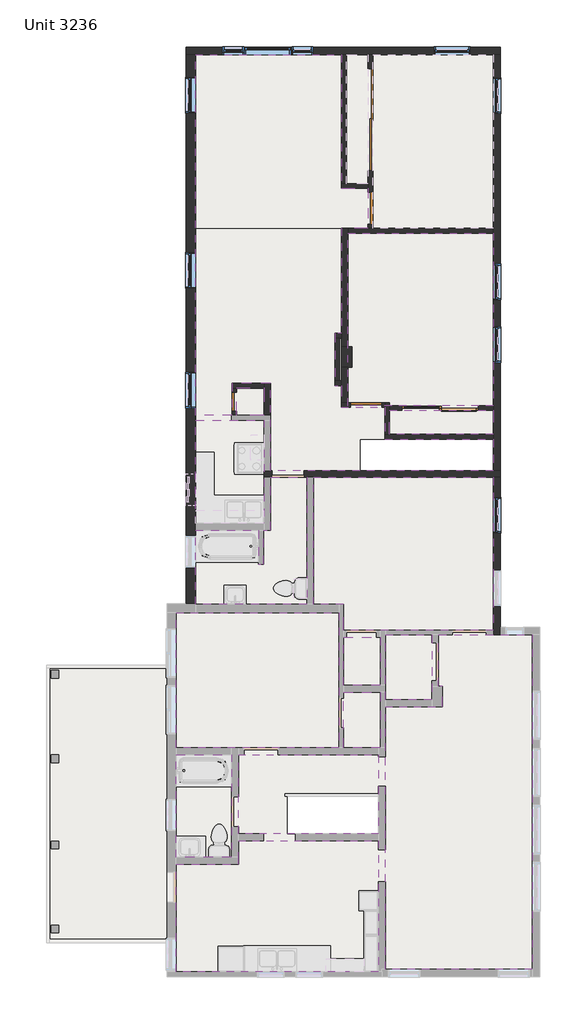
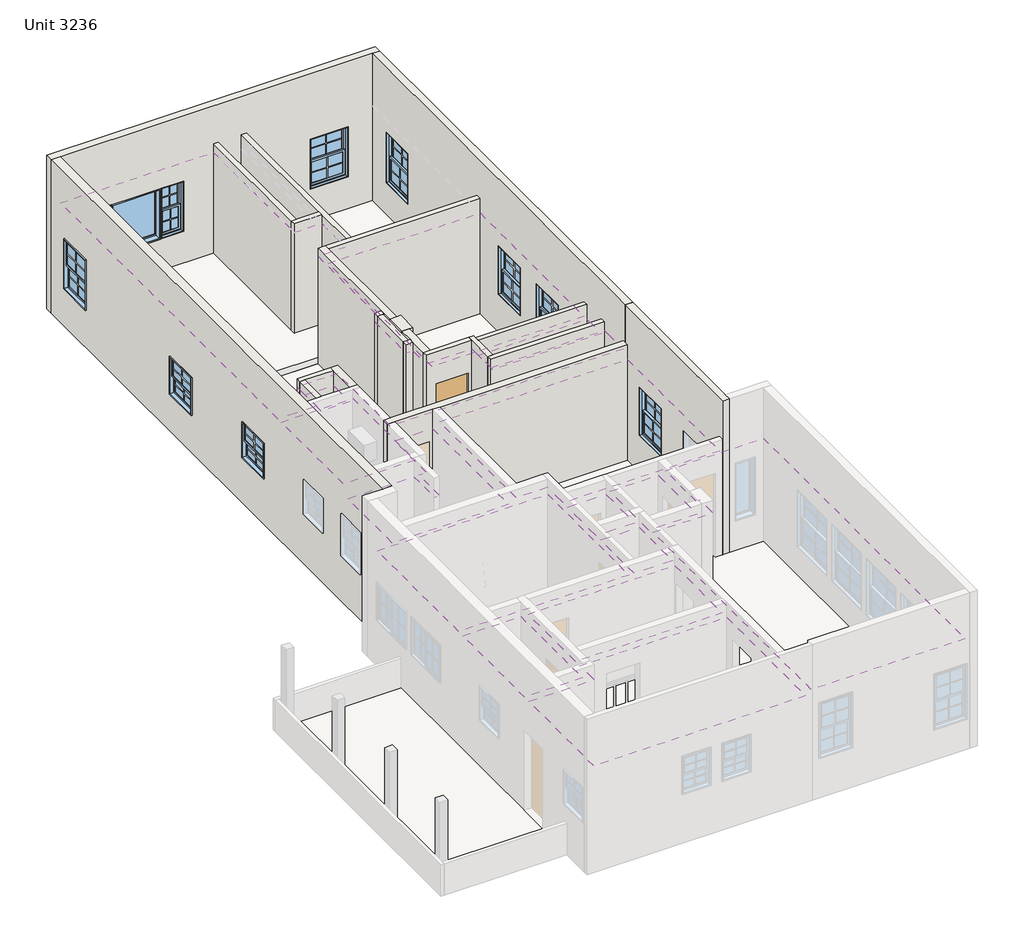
# One storey, part 2 of 3: 22 walls, 15 coverings, 11 windows, 5 doors, 3 slabs.
"""IFC4 building model written with IfcOpenShell, lengths in millimetres."""

from ifc_helpers import new_model, si_unit, frame, origin, place, context, project, spatial, polyline, outline, extrude, faceted_brep, transform, mapped, element, save
from components import door_4a436eca, door_f61abd0f, door_aa45f35f, door_3974eb5a, door_7fdea281, window_d32207df, window_7579d9c0, window_70ceb76e, window_a33a3c81, window_6252a8aa, window_33594941, window_0332ee5e, window_46490766

model = new_model("IFC4")

# Units and contexts
model_context = context("Model", 3, world=origin())
ifc_project = project(units=[si_unit("LENGTHUNIT", "METRE", prefix="MILLI")], contexts=[model_context])

# Site, building, storey
site = spatial("IfcSite", under=ifc_project)
building = spatial("IfcBuilding", under=site)
storey = spatial("IfcBuildingStorey", under=building, Name="Unit 3236", Elevation=2895.6)

# Coverings
placement = place(None, origin())
element("IfcCovering", 1, ObjectType="1/2\" Ceiling", at=placement, inside=storey, context=model_context, shape_type="SweptSolid", body=[
    extrude(outline(polyline([(197.4197598, 12350.1038353), (197.4197598, 9156.0538353), (832.4197598, 9156.0538353), (832.4197598, 8197.2038353), (191.0697598, 8197.2038353), (191.0697598, 5688.9538353), (38.6697598, 5688.9538353), (38.6697598, 4438.0038353), (191.0697598, 4438.0038353), (191.0697598, 3917.3038353), (1232.4697598, 3917.3038353), (1232.4697598, 3155.3038353), (3829.6197598, 3155.3038353), (3829.6197598, 2406.0038353), (-1498.0302402, 2406.0038353), (-1498.0302402, 4495.1538353), (-2425.1302402, 4495.1538353), (-2425.1302402, 3726.8038353), (-3301.4302402, 3726.8038353), (-3301.4302402, 12350.1038353), (197.4197598, 12350.1038353)])), frame((0.0, 0.0, 5486.4), z_axis=(0.0, 0.0, 1.0), x_axis=(1.0, 0.0, 0.0)), (0.0, 0.0, 1.0), 12.7),
])
element("IfcCovering", 2, ObjectType="1/2\" Ceiling", at=placement, inside=storey, context=model_context, shape_type="SweptSolid", body=[
    extrude(outline(polyline([(356.1697598, 3961.7538353), (356.1697598, 8082.9038353), (3829.6197598, 8082.9038353), (3829.6197598, 3961.7538353), (356.1697598, 3961.7538353)])), frame((0.0, 0.0, 5334.0), z_axis=(0.0, 0.0, 1.0), x_axis=(1.0, 0.0, 0.0)), (0.0, 0.0, 1.0), 12.7),
])
element("IfcCovering", 3, ObjectType="1/2\" Ceiling", at=placement, inside=storey, context=model_context, shape_type="SweptSolid", body=[
    extrude(outline(polyline([(1346.7697598, 3269.6038353), (1346.7697598, 3847.4538353), (3829.6197598, 3847.4538353), (3829.6197598, 3269.6038353), (1346.7697598, 3269.6038353)])), frame((0.0, 0.0, 5334.0), z_axis=(0.0, 0.0, 1.0), x_axis=(1.0, 0.0, 0.0)), (0.0, 0.0, 1.0), 12.7),
])
element("IfcCovering", 4, ObjectType="1/2\" Ceiling", at=placement, inside=storey, context=model_context, shape_type="SweptSolid", body=[
    extrude(outline(polyline([(-2310.8302402, 3726.8038353), (-2310.8302402, 4380.8538353), (-1663.1302402, 4380.8538353), (-1663.1302402, 3726.8038353), (-2310.8302402, 3726.8038353)])), frame((0.0, 0.0, 5334.0), z_axis=(0.0, 0.0, 1.0), x_axis=(1.0, 0.0, 0.0)), (0.0, 0.0, 1.0), 12.7),
])
element("IfcCovering", 5, ObjectType="1/2\" Ceiling", at=placement, inside=storey, context=model_context, shape_type="SweptSolid", body=[
    extrude(outline(polyline([(-1663.1302402, 3612.5038353), (-1663.1302402, 1142.3538353), (-3301.4302402, 1142.3538353), (-3301.4302402, 3612.5038353), (-1663.1302402, 3612.5038353)])), frame((0.0, 0.0, 5486.4), z_axis=(0.0, 0.0, 1.0), x_axis=(1.0, 0.0, 0.0)), (0.0, 0.0, 1.0), 12.7),
])
element("IfcCovering", 6, ObjectType="1/2\" Ceiling", at=placement, inside=storey, context=model_context, shape_type="SweptSolid", body=[
    extrude(outline(polyline([(-1498.0302402, 2240.9038353), (-634.4302402, 2240.9038353), (-634.4302402, -794.3961647), (-3301.4302402, -794.3961647), (-3301.4302402, 977.2538353), (-1783.7802402, 977.2538353), (-1783.7802402, 164.4538353), (-1669.4802402, 164.4538353), (-1669.4802402, 977.2538353), (-1498.0302402, 977.2538353), (-1498.0302402, 2240.9038353)])), frame((0.0, 0.0, 5232.4), z_axis=(0.0, 0.0, 1.0), x_axis=(1.0, 0.0, 0.0)), (0.0, 0.0, 1.0), 12.7),
])
element("IfcCovering", 7, ObjectType="1/2\" Ceiling", at=placement, inside=storey, context=model_context, shape_type="SweptSolid", body=[
    extrude(outline(polyline([(3829.6197598, 2240.9038353), (3829.6197598, -1410.3461647), (248.2197598, -1410.3461647), (248.2197598, -794.3961647), (-469.3302402, -794.3961647), (-469.3302402, 2240.9038353), (3829.6197598, 2240.9038353)])), frame((0.0, 0.0, 5334.0), z_axis=(0.0, 0.0, 1.0), x_axis=(1.0, 0.0, 0.0)), (0.0, 0.0, 1.0), 12.7),
])
element("IfcCovering", 8, ObjectType="1/2\" Ceiling", at=placement, inside=storey, context=model_context, shape_type="SweptSolid", body=[
    extrude(outline(polyline([(248.2197598, -2724.7961647), (248.2197598, -1575.4461647), (1130.8697598, -1575.4461647), (1130.8697598, -2724.7961647), (248.2197598, -2724.7961647)])), frame((0.0, 0.0, 5334.0), z_axis=(0.0, 0.0, 1.0), x_axis=(1.0, 0.0, 0.0)), (0.0, 0.0, 1.0), 12.7),
])
element("IfcCovering", 9, ObjectType="1/2\" Ceiling", at=placement, inside=storey, context=model_context, shape_type="SweptSolid", body=[
    extrude(outline(polyline([(-3764.9802402, -997.5961647), (133.9197598, -997.5961647), (133.9197598, -4223.3961647), (-3764.9802402, -4223.3961647), (-3764.9802402, -997.5961647)])), frame((0.0, 0.0, 5334.0), z_axis=(0.0, 0.0, 1.0), x_axis=(1.0, 0.0, 0.0)), (0.0, 0.0, 1.0), 12.7),
])
element("IfcCovering", 10, ObjectType="1/2\" Ceiling", at=placement, inside=storey, context=model_context, shape_type="SweptSolid", body=[
    extrude(outline(polyline([(248.2197598, -4223.3961647), (248.2197598, -2889.8961647), (1130.8697598, -2889.8961647), (1130.8697598, -4223.3961647), (248.2197598, -4223.3961647)])), frame((0.0, 0.0, 5334.0), z_axis=(0.0, 0.0, 1.0), x_axis=(1.0, 0.0, 0.0)), (0.0, 0.0, 1.0), 12.7),
])
element("IfcCovering", 11, ObjectType="1/2\" Ceiling", at=placement, inside=storey, context=model_context, shape_type="SweptSolid", body=[
    extrude(outline(polyline([(1245.1697598, -9519.2961647), (1245.1697598, -3245.4961647), (2610.4197598, -3245.4961647), (2610.4197598, -2750.1961647), (2521.5197598, -2750.1961647), (2521.5197598, -1524.6461647), (4763.0697598, -1524.6461647), (4763.0697598, -9519.2961647), (1245.1697598, -9519.2961647)])), frame((0.0, 0.0, 5384.8), z_axis=(0.0, 0.0, 1.0), x_axis=(1.0, 0.0, 0.0)), (0.0, 0.0, 1.0), 12.7),
])
element("IfcCovering", 12, ObjectType="1/2\" Ceiling", at=placement, inside=storey, context=model_context, shape_type="SweptSolid", body=[
    extrude(outline(polyline([(1245.1697598, -3080.3961647), (1245.1697598, -1524.6461647), (2356.4197598, -1524.6461647), (2356.4197598, -3080.3961647), (1245.1697598, -3080.3961647)])), frame((0.0, 0.0, 5334.0), z_axis=(0.0, 0.0, 1.0), x_axis=(1.0, 0.0, 0.0)), (0.0, 0.0, 1.0), 12.7),
])
element("IfcCovering", 13, ObjectType="1/2\" Ceiling", at=placement, inside=storey, context=model_context, shape_type="SweptSolid", body=[
    extrude(outline(polyline([(-2272.7302402, -6280.7961647), (-2272.7302402, -4388.4961647), (1080.0697598, -4388.4961647), (1080.0697598, -6280.7961647), (-2272.7302402, -6280.7961647)])), frame((0.0, 0.0, 5334.0), z_axis=(0.0, 0.0, 1.0), x_axis=(1.0, 0.0, 0.0)), (0.0, 0.0, 1.0), 12.7),
])
element("IfcCovering", 14, ObjectType="1/2\" Ceiling", at=placement, inside=storey, context=model_context, shape_type="SweptSolid", body=[
    extrude(outline(polyline([(-3764.9802402, -6839.5961647), (-3764.9802402, -4388.4961647), (-2437.8302402, -4388.4961647), (-2437.8302402, -6839.5961647), (-3764.9802402, -6839.5961647)])), frame((0.0, 0.0, 5334.0), z_axis=(0.0, 0.0, 1.0), x_axis=(1.0, 0.0, 0.0)), (0.0, 0.0, 1.0), 12.7),
])
element("IfcCovering", 15, ObjectType="1/2\" Ceiling", at=placement, inside=storey, context=model_context, shape_type="SweptSolid", body=[
    extrude(outline(polyline([(-2272.7302402, -6445.8961647), (1080.0697598, -6445.8961647), (1080.0697598, -9582.7961647), (-3764.9802402, -9582.7961647), (-3764.9802402, -7004.6961647), (-2272.7302402, -7004.6961647), (-2272.7302402, -6445.8961647)])), frame((0.0, 0.0, 5334.0), z_axis=(0.0, 0.0, 1.0), x_axis=(1.0, 0.0, 0.0)), (0.0, 0.0, 1.0), 12.7),
])

# Doors
door_shape = door_4a436eca(model_context)
element("IfcDoor", 16, ObjectType="Planitar - Single Door_Flush Panel : 1'-6\" x 6'-8\"", at=placement, inside=storey, context=model_context, shape_type="MappedRepresentation", body=[
    mapped(door_shape, transform((-2367.9802402, 4053.8288353, 2895.6), x_axis=(0.0, -1.0, 0.0), y_axis=(1.0, 0.0, 0.0), z_axis=(0.0, 0.0, 1.0))),
])
door_2_shape = door_f61abd0f(model_context)
element("IfcDoor", 17, ObjectType="Planitar - Single Door_Flush Panel : 2'-6\" x 6'-8\"", at=placement, inside=storey, context=model_context, shape_type="MappedRepresentation", body=[
    mapped(door_2_shape, transform((787.9697598, 3974.4538353, 2895.6), x_axis=(-1.0, 0.0, 0.0), y_axis=(0.0, -1.0, 0.0), z_axis=(0.0, 0.0, 1.0))),
])
door_3_shape = door_aa45f35f(model_context)
element("IfcDoor", 18, ObjectType="Planitar - Single Door_Flush Panel : 2'-6\" x 6'-8\"", at=placement, inside=storey, context=model_context, shape_type="MappedRepresentation", body=[
    mapped(door_3_shape, transform((889.5697598, 8676.6288353, 2895.6), x_axis=(0.0, -1.0, 0.0), y_axis=(1.0, 0.0, 0.0), z_axis=(0.0, 0.0, 1.0))),
])
door_4_shape = door_3974eb5a(model_context)
element("IfcDoor", 19, ObjectType="Planitar - Double Sliding Door_Glass : 6'-0\" x 6'-8\"", at=placement, inside=storey, context=model_context, shape_type="MappedRepresentation", body=[
    mapped(door_4_shape, transform((2559.6197598, 4031.6038353, 2895.6), x_axis=(-1.0, 0.0, 0.0), y_axis=(0.0, -1.0, 0.0), z_axis=(0.0, 0.0, 1.0))),
])
door_5_shape = door_7fdea281(model_context)
element("IfcDoor", 20, ObjectType="Planitar - Double Sliding Door_Flush Panel : 8'-0\" x 6'-8\"", at=placement, inside=storey, context=model_context, shape_type="MappedRepresentation", body=[
    mapped(door_5_shape, transform((892.7447598, 10800.7038353, 2895.6), x_axis=(0.0, -1.0, 0.0), y_axis=(1.0, 0.0, 0.0), z_axis=(0.0, 0.0, 1.0))),
])

# Slabs
element("IfcSlab", 21, ObjectType="Ledge - 2\"", at=placement, inside=storey, context=model_context, shape_type="SweptSolid", body=[
    extrude(outline(polyline([(-3980.8802402, -2324.7461647), (-3980.8802402, -8808.0961647), (-6787.5802402, -8808.0961647), (-6787.5802402, -2324.7461647), (-3980.8802402, -2324.7461647)])), frame((0.0, 0.0, 2844.8), z_axis=(0.0, 0.0, 1.0), x_axis=(1.0, 0.0, 0.0)), (0.0, 0.0, 1.0), 50.8),
])
element("IfcSlab", 22, ObjectType="Ledge - 2\"", at=placement, inside=storey, context=model_context, shape_type="SweptSolid", body=[
    extrude(outline(polyline([(191.0697598, 8197.2038353), (191.0697598, 8082.9038353), (3829.6197598, 8082.9038353), (3829.6197598, 3155.3038353), (643.1588227, 3155.3038353), (643.1588227, 2406.0038353), (3829.6197598, 2406.0038353), (3829.6197598, 2240.9038353), (3829.6197598, -1524.6461647), (4763.0697598, -1524.6461647), (4763.0697598, -9519.2961647), (1080.0697598, -9519.2961647), (1080.0697598, -9582.7961647), (-3764.9802402, -9582.7961647), (-3764.9802402, -997.5961647), (-3301.4302402, -997.5961647), (-3301.4302402, 8197.2038353), (191.0697598, 8197.2038353)]), holes=[polyline([(-1097.9802402, -5353.6961647), (-1097.9802402, -6280.7961647), (1080.0697598, -6280.7961647), (1080.0697598, -5353.6961647), (-1097.9802402, -5353.6961647)])]), frame((0.0, 0.0, 2844.8), z_axis=(0.0, 0.0, 1.0), x_axis=(1.0, 0.0, 0.0)), (0.0, 0.0, 1.0), 50.8),
])
element("IfcSlab", 23, ObjectType="Ledge - 6\"", at=placement, inside=storey, context=model_context, shape_type="SweptSolid", body=[
    extrude(outline(polyline([(3829.6197598, 12350.1038353), (3829.6197598, 8197.2038353), (-3301.4302402, 8197.2038353), (-3301.4302402, 12350.1038353), (3829.6197598, 12350.1038353)])), frame((0.0, 0.0, 2895.6), z_axis=(0.0, 0.0, 1.0), x_axis=(1.0, 0.0, 0.0)), (0.0, 0.0, 1.0), 152.4),
])

# Walls
element("IfcWall", 24, ObjectType="Planitar - Generic 7\"", at=placement, inside=storey, context=model_context, shape_type="Brep", body=[
    faceted_brep([(-3517.3302402, 12350.1038353, 2895.6), (-3301.4302402, 12350.1038353, 2895.6), (197.4197598, 12350.1038353, 2895.6), (311.7197598, 12350.1038353, 2895.6), (832.4197598, 12350.1038353, 2895.6), (946.7197598, 12350.1038353, 2895.6), (3829.6197598, 12350.1038353, 2895.6), (3994.7197598, 12350.1038353, 2895.6), (3994.7197598, 12350.1038353, 6604.0), (3829.6197598, 12350.1038353, 6604.0), (-3301.4302402, 12350.1038353, 6604.0), (-3517.3302402, 12350.1038353, 6604.0), (2413.5697598, 12350.1038353, 3810.0), (2413.5697598, 12350.1038353, 5029.2), (3277.1697598, 12350.1038353, 5029.2), (3277.1697598, 12350.1038353, 3810.0), (-2129.8552402, 12350.1038353, 3810.0), (-2129.8552402, 12350.1038353, 5029.2), (-1012.2552402, 12350.1038353, 5029.2), (-1012.2552402, 12350.1038353, 3810.0), (-485.2052402, 12350.1038353, 3810.0), (-993.2052402, 12350.1038353, 3810.0), (-993.2052402, 12350.1038353, 5029.2), (-485.2052402, 12350.1038353, 5029.2), (-2644.2052402, 12350.1038353, 3810.0), (-2644.2052402, 12350.1038353, 5029.2), (-2136.2052402, 12350.1038353, 5029.2), (-2136.2052402, 12350.1038353, 3810.0), (3994.7197598, 12527.9038353, 2895.6), (-3517.3302402, 12527.9038353, 2895.6), (-3517.3302402, 12527.9038353, 6604.0), (3994.7197598, 12527.9038353, 6604.0), (2413.5697598, 12527.9038353, 5029.2), (2413.5697598, 12527.9038353, 3810.0), (3277.1697598, 12527.9038353, 3810.0), (3277.1697598, 12527.9038353, 5029.2), (-2129.8552402, 12527.9038353, 3810.0), (-1012.2552402, 12527.9038353, 3810.0), (-1012.2552402, 12527.9038353, 5029.2), (-2129.8552402, 12527.9038353, 5029.2), (-993.2052402, 12527.9038353, 3810.0), (-485.2052402, 12527.9038353, 3810.0), (-485.2052402, 12527.9038353, 5029.2), (-993.2052402, 12527.9038353, 5029.2), (-2644.2052402, 12527.9038353, 5029.2), (-2644.2052402, 12527.9038353, 3810.0), (-2136.2052402, 12527.9038353, 3810.0), (-2136.2052402, 12527.9038353, 5029.2)], [[[0, 1, 2, 3, 4, 5, 6, 7, 8, 9, 10, 11], [12, 13, 14, 15], [16, 17, 18, 19], [20, 21, 22, 23], [24, 25, 26, 27]], [[28, 29, 30, 31], [32, 33, 34, 35], [36, 37, 38, 39], [40, 41, 42, 43], [44, 45, 46, 47]], [[7, 6, 5, 4, 3, 2, 1, 0, 29, 28]], [[11, 10, 9, 8, 31, 30]], [[8, 7, 28, 31]], [[0, 11, 30, 29]], [[33, 32, 13, 12]], [[34, 33, 12, 15]], [[35, 34, 15, 14]], [[32, 35, 14, 13]], [[17, 16, 36, 39]], [[18, 17, 39, 38]], [[19, 18, 38, 37]], [[16, 19, 37, 36]], [[21, 40, 43, 22]], [[40, 21, 20, 41]], [[41, 20, 23, 42]], [[22, 43, 42, 23]], [[44, 25, 24, 45]], [[45, 24, 27, 46]], [[46, 27, 26, 47]], [[25, 44, 47, 26]]]),
])
element("IfcWall", 25, ObjectType="Planitar - Generic 6 1/2\"", at=placement, inside=storey, context=model_context, shape_type="Brep", body=[
    faceted_brep([(3829.6197598, 12350.1038353, 2895.6), (3829.6197598, 8197.2038353, 2895.6), (3829.6197598, 8082.9038353, 2895.6), (3829.6197598, 3961.7538353, 2895.6), (3829.6197598, 3847.4538353, 2895.6), (3829.6197598, 3269.6038353, 2895.6), (3829.6197598, 3155.3038353, 2895.6), (3829.6197598, 2406.0038353, 2895.6), (3829.6197598, 2406.0038353, 5689.6), (3829.6197598, 2323.4538353, 5689.6), (3829.6197598, 2323.4538353, 6604.0), (3829.6197598, 12350.1038353, 6604.0), (3829.6197598, 5847.7038353, 4978.4), (3829.6197598, 4984.1038353, 4978.4), (3829.6197598, 4984.1038353, 3810.0), (3829.6197598, 5847.7038353, 3810.0), (3829.6197598, 7352.6538353, 4978.4), (3829.6197598, 6489.0538353, 4978.4), (3829.6197598, 6489.0538353, 3810.0), (3829.6197598, 7352.6538353, 3810.0), (3829.6197598, 11804.0038353, 5029.2), (3829.6197598, 10940.4038353, 5029.2), (3829.6197598, 10940.4038353, 3810.0), (3829.6197598, 11804.0038353, 3810.0), (3994.7197598, 12350.1038353, 2895.6), (3994.7197598, 12350.1038353, 6604.0), (3994.7197598, 2323.4538353, 6604.0), (3994.7197598, 2323.4538353, 5689.6), (3994.7197598, 2406.0038353, 5689.6), (3994.7197598, 2406.0038353, 2895.6), (3994.7197598, 5847.7038353, 4978.4), (3994.7197598, 5847.7038353, 3810.0), (3994.7197598, 4984.1038353, 3810.0), (3994.7197598, 4984.1038353, 4978.4), (3994.7197598, 7352.6538353, 4978.4), (3994.7197598, 7352.6538353, 3810.0), (3994.7197598, 6489.0538353, 3810.0), (3994.7197598, 6489.0538353, 4978.4), (3994.7197598, 11804.0038353, 5029.2), (3994.7197598, 11804.0038353, 3810.0), (3994.7197598, 10940.4038353, 3810.0), (3994.7197598, 10940.4038353, 5029.2)], [[[0, 1, 2, 3, 4, 5, 6, 7, 8, 9, 10, 11], [12, 13, 14, 15], [16, 17, 18, 19], [20, 21, 22, 23]], [[24, 25, 26, 27, 28, 29], [30, 31, 32, 33], [34, 35, 36, 37], [38, 39, 40, 41]], [[7, 6, 5, 4, 3, 2, 1, 0, 24, 29]], [[11, 10, 26, 25]], [[0, 11, 25, 24]], [[31, 30, 12, 15]], [[32, 31, 15, 14]], [[33, 32, 14, 13]], [[30, 33, 13, 12]], [[35, 34, 16, 19]], [[36, 35, 19, 18]], [[37, 36, 18, 17]], [[34, 37, 17, 16]], [[39, 38, 20, 23]], [[40, 39, 23, 22]], [[41, 40, 22, 21]], [[38, 41, 21, 20]], [[10, 9, 27, 26]], [[27, 9, 8, 28]], [[8, 7, 29, 28]]]),
])
element("IfcWall", 26, ObjectType="Planitar - Generic 6 1/2\"", at=placement, inside=storey, context=model_context, shape_type="Brep", body=[
    faceted_brep([(3829.6197598, 2240.9038353, 2895.6), (3829.6197598, -1410.3461647, 2895.6), (3829.6197598, -1524.6461647, 2895.6), (3829.6197598, -1524.6461647, 5689.6), (3829.6197598, -1524.6461647, 6604.0), (3829.6197598, 2323.4538353, 6604.0), (3829.6197598, 2323.4538353, 5689.6), (3829.6197598, 2240.9038353, 5689.6), (3829.6197598, 24.7538353, 4953.0), (3829.6197598, -838.8461647, 4953.0), (3829.6197598, -838.8461647, 3784.6), (3829.6197598, 24.7538353, 3784.6), (3829.6197598, 1771.0038353, 4953.0), (3829.6197598, 907.4038353, 4953.0), (3829.6197598, 907.4038353, 3784.6), (3829.6197598, 1771.0038353, 3784.6), (3994.7197598, 2240.9038353, 2895.6), (3994.7197598, 2240.9038353, 5689.6), (3994.7197598, 2323.4538353, 5689.6), (3994.7197598, 2323.4538353, 6604.0), (3994.7197598, -1346.8461647, 6604.0), (3994.7197598, -1524.6461647, 6604.0), (3994.7197598, -1524.6461647, 2895.6), (3994.7197598, 24.7538353, 4953.0), (3994.7197598, 24.7538353, 3784.6), (3994.7197598, -838.8461647, 3784.6), (3994.7197598, -838.8461647, 4953.0), (3994.7197598, 1771.0038353, 4953.0), (3994.7197598, 1771.0038353, 3784.6), (3994.7197598, 907.4038353, 3784.6), (3994.7197598, 907.4038353, 4953.0)], [[[0, 1, 2, 3, 4, 5, 6, 7], [8, 9, 10, 11], [12, 13, 14, 15]], [[16, 17, 18, 19, 20, 21, 22], [23, 24, 25, 26], [27, 28, 29, 30]], [[2, 1, 0, 16, 22]], [[5, 4, 21, 20, 19]], [[24, 23, 8, 11]], [[25, 24, 11, 10]], [[26, 25, 10, 9]], [[23, 26, 9, 8]], [[28, 27, 12, 15]], [[29, 28, 15, 14]], [[30, 29, 14, 13]], [[27, 30, 13, 12]], [[2, 22, 21, 4, 3]], [[6, 5, 19, 18]], [[6, 18, 17, 7]], [[0, 7, 17, 16]]]),
])
element("IfcWall", 27, ObjectType="Planitar - Generic 6 1/2\"", at=placement, inside=storey, context=model_context, shape_type="Brep", body=[
    faceted_brep([(-1463.1052402, 2406.0038353, 4927.6), (-1463.1052402, 2406.0038353, 2895.6), (-1498.0302402, 2406.0038353, 2895.6), (-1663.1302402, 2406.0038353, 2895.6), (-1663.1302402, 2406.0038353, 5689.6), (-1498.0302402, 2406.0038353, 5689.6), (3829.6197598, 2406.0038353, 5689.6), (3994.7197598, 2406.0038353, 5689.6), (3994.7197598, 2406.0038353, 2895.6), (3829.6197598, 2406.0038353, 2895.6), (-701.1052402, 2406.0038353, 2895.6), (-701.1052402, 2406.0038353, 4927.6), (-1663.1302402, 2240.9038353, 2895.6), (-1498.0302402, 2240.9038353, 2895.6), (-1463.1052402, 2240.9038353, 2895.6), (-1463.1052402, 2240.9038353, 4927.6), (-701.1052402, 2240.9038353, 4927.6), (-701.1052402, 2240.9038353, 2895.6), (-634.4302402, 2240.9038353, 2895.6), (-469.3302402, 2240.9038353, 2895.6), (3829.6197598, 2240.9038353, 2895.6), (3994.7197598, 2240.9038353, 2895.6), (3994.7197598, 2240.9038353, 5689.6), (3829.6197598, 2240.9038353, 5689.6), (-469.3302402, 2240.9038353, 5689.6), (-634.4302402, 2240.9038353, 5689.6), (-1498.0302402, 2240.9038353, 5689.6), (-1663.1302402, 2240.9038353, 5689.6), (3994.7197598, 2323.4538353, 5689.6)], [[[0, 1, 2, 3, 4, 5, 6, 7, 8, 9, 10, 11]], [[12, 13, 14, 15, 16, 17, 18, 19, 20, 21, 22, 23, 24, 25, 26, 27]], [[3, 2, 1, 14, 13, 12]], [[10, 9, 8, 21, 20, 19, 18, 17]], [[7, 6, 5, 4, 27, 26, 25, 24, 23, 22, 28]], [[4, 3, 12, 27]], [[15, 14, 1, 0]], [[16, 15, 0, 11]], [[17, 16, 11, 10]], [[8, 7, 28, 22, 21]]]),
])
element("IfcWall", 28, ObjectType="Planitar - Generic 4 1/2\"", at=placement, inside=storey, context=model_context, shape_type="Brep", body=[
    faceted_brep([(3829.6197598, 3269.6038353, 2895.6), (1346.7697598, 3269.6038353, 2895.6), (1232.4697598, 3269.6038353, 2895.6), (1232.4697598, 3269.6038353, 5689.6), (1346.7697598, 3269.6038353, 5689.6), (3829.6197598, 3269.6038353, 5689.6), (3829.6197598, 3155.3038353, 2895.6), (3829.6197598, 3155.3038353, 5689.6), (1232.4697598, 3155.3038353, 5689.6), (1232.4697598, 3155.3038353, 2895.6)], [[[0, 1, 2, 3, 4, 5]], [[6, 7, 8, 9]], [[2, 1, 0, 6, 9]], [[5, 4, 3, 8, 7]], [[0, 5, 7, 6]], [[3, 2, 9, 8]]]),
])
element("IfcWall", 29, ObjectType="Planitar - Generic 4 1/2\"", at=placement, inside=storey, context=model_context, shape_type="Brep", body=[
    faceted_brep([(1346.7697598, 3269.6038353, 2895.6), (1346.7697598, 3847.4538353, 2895.6), (1346.7697598, 3961.7538353, 2895.6), (1346.7697598, 4031.6038353, 2895.6), (1346.7697598, 4031.6038353, 5689.6), (1346.7697598, 3961.7538353, 5689.6), (1346.7697598, 3847.4538353, 5689.6), (1346.7697598, 3269.6038353, 5689.6), (1232.4697598, 3269.6038353, 2895.6), (1232.4697598, 3269.6038353, 5689.6), (1232.4697598, 3917.3038353, 5689.6), (1232.4697598, 4031.6038353, 5689.6), (1232.4697598, 4031.6038353, 2895.6), (1232.4697598, 3917.3038353, 2895.6)], [[[0, 1, 2, 3, 4, 5, 6, 7]], [[8, 9, 10, 11, 12, 13]], [[3, 2, 1, 0, 8, 13, 12]], [[7, 6, 5, 4, 11, 10, 9]], [[0, 7, 9, 8]], [[4, 3, 12, 11]]]),
])
element("IfcWall", 30, ObjectType="Planitar - Generic 4 1/2\"", at=placement, inside=storey, context=model_context, shape_type="Brep", body=[
    faceted_brep([(406.9697598, 4031.6038353, 4927.6), (406.9697598, 4031.6038353, 2895.6), (356.1697598, 4031.6038353, 2895.6), (191.0697598, 4031.6038353, 2895.6), (191.0697598, 4031.6038353, 5689.6), (356.1697598, 4031.6038353, 5689.6), (1232.4697598, 4031.6038353, 5689.6), (1232.4697598, 4031.6038353, 2895.6), (1168.9697598, 4031.6038353, 2895.6), (1168.9697598, 4031.6038353, 4927.6), (191.0697598, 3917.3038353, 2895.6), (406.9697598, 3917.3038353, 2895.6), (406.9697598, 3917.3038353, 4927.6), (1168.9697598, 3917.3038353, 4927.6), (1168.9697598, 3917.3038353, 2895.6), (1232.4697598, 3917.3038353, 2895.6), (1232.4697598, 3917.3038353, 5689.6), (191.0697598, 3917.3038353, 5689.6)], [[[0, 1, 2, 3, 4, 5, 6, 7, 8, 9]], [[10, 11, 12, 13, 14, 15, 16, 17]], [[8, 7, 15, 14]], [[3, 2, 1, 11, 10]], [[6, 5, 4, 17, 16]], [[7, 6, 16, 15]], [[4, 3, 10, 17]], [[12, 11, 1, 0]], [[13, 12, 0, 9]], [[14, 13, 9, 8]]]),
])
element("IfcWall", 31, ObjectType="Planitar - Generic 4 1/2\"", at=placement, inside=storey, context=model_context, shape_type="SweptSolid", body=[
    extrude(outline(polyline([(2895.6, 1346.7697598), (2895.6, 1645.2197598), (4927.6, 1645.2197598), (4927.6, 3474.0197598), (2895.6, 3474.0197598), (2895.6, 3829.6197598), (5689.6, 3829.6197598), (5689.6, 1346.7697598), (2895.6, 1346.7697598)])), frame((0.0, 3847.4538353, 0.0), z_axis=(0.0, 1.0, 0.0), x_axis=(0.0, 0.0, 1.0)), (0.0, 0.0, 1.0), 114.3),
])
element("IfcWall", 32, ObjectType="Planitar - Generic 6 1/2\"", at=placement, inside=storey, context=model_context, shape_type="Brep", body=[
    faceted_brep([(-1498.0302402, 3726.8038353, 2895.6), (-1498.0302402, 4495.1538353, 2895.6), (-1498.0302402, 4495.1538353, 5689.6), (-1498.0302402, 3726.8038353, 5689.6), (-1663.1302402, 3726.8038353, 2895.6), (-1663.1302402, 3726.8038353, 5689.6), (-1663.1302402, 4380.8538353, 5689.6), (-1663.1302402, 4495.1538353, 5689.6), (-1663.1302402, 4495.1538353, 2895.6), (-1663.1302402, 4380.8538353, 2895.6)], [[[0, 1, 2, 3]], [[4, 5, 6, 7, 8, 9]], [[1, 0, 4, 9, 8]], [[3, 2, 7, 6, 5]], [[0, 3, 5, 4]], [[2, 1, 8, 7]]]),
])
element("IfcWall", 33, ObjectType="Planitar - Generic 4 1/2\"", at=placement, inside=storey, context=model_context, shape_type="Brep", body=[
    faceted_brep([(-1663.1302402, 4495.1538353, 2895.6), (-2425.1302402, 4495.1538353, 2895.6), (-2425.1302402, 4495.1538353, 5689.6), (-1663.1302402, 4495.1538353, 5689.6), (-1663.1302402, 4380.8538353, 2895.6), (-1663.1302402, 4380.8538353, 5689.6), (-2310.8302402, 4380.8538353, 5689.6), (-2425.1302402, 4380.8538353, 5689.6), (-2425.1302402, 4380.8538353, 2895.6), (-2310.8302402, 4380.8538353, 2895.6)], [[[0, 1, 2, 3]], [[4, 5, 6, 7, 8, 9]], [[1, 0, 4, 9, 8]], [[3, 2, 7, 6, 5]], [[0, 3, 5, 4]], [[2, 1, 8, 7]]]),
])
element("IfcWall", 34, ObjectType="Planitar - Generic 4 1/2\"", at=placement, inside=storey, context=model_context, shape_type="SweptSolid", body=[
    extrude(outline(polyline([(3825.2288353, 4927.6), (3825.2288353, 2895.6), (3726.8038353, 2895.6), (3726.8038353, 5689.6), (4380.8538353, 5689.6), (4380.8538353, 2895.6), (4282.4288353, 2895.6), (4282.4288353, 4927.6), (3825.2288353, 4927.6)])), frame((-2425.1302402, 0.0, 0.0), z_axis=(1.0, 0.0, 0.0), x_axis=(0.0, 1.0, 0.0)), (0.0, 0.0, 1.0), 114.3),
])
element("IfcWall", 35, ObjectType="Planitar - Generic 6 1/2\"", at=placement, inside=storey, context=model_context, shape_type="Brep", body=[
    faceted_brep([(356.1697598, 4031.6038353, 2895.6), (356.1697598, 4876.1538353, 2895.6), (356.1697598, 4876.1538353, 5689.6), (356.1697598, 4031.6038353, 5689.6), (191.0697598, 4031.6038353, 2895.6), (191.0697598, 4031.6038353, 5689.6), (191.0697598, 4438.0038353, 5689.6), (191.0697598, 4552.3038353, 5689.6), (191.0697598, 4876.1538353, 5689.6), (191.0697598, 4876.1538353, 2895.6), (191.0697598, 4552.3038353, 2895.6), (191.0697598, 4438.0038353, 2895.6)], [[[0, 1, 2, 3]], [[4, 5, 6, 7, 8, 9, 10, 11]], [[1, 0, 4, 11, 10, 9]], [[2, 1, 9, 8]], [[3, 2, 8, 7, 6, 5]], [[0, 3, 5, 4]]]),
])
element("IfcWall", 36, ObjectType="Planitar - Generic 6 1/2\"", at=placement, inside=storey, context=model_context, shape_type="Brep", body=[
    faceted_brep([(356.1697598, 5365.1038353, 2895.6), (356.1697598, 8082.9038353, 2895.6), (356.1697598, 8197.2038353, 2895.6), (356.1697598, 8197.2038353, 5689.6), (356.1697598, 8082.9038353, 5689.6), (356.1697598, 5365.1038353, 5689.6), (191.0697598, 5365.1038353, 2895.6), (191.0697598, 5365.1038353, 5689.6), (191.0697598, 5574.6538353, 5689.6), (191.0697598, 5688.9538353, 5689.6), (191.0697598, 8197.2038353, 5689.6), (191.0697598, 8197.2038353, 2895.6), (191.0697598, 5688.9538353, 2895.6), (191.0697598, 5574.6538353, 2895.6)], [[[0, 1, 2, 3, 4, 5]], [[6, 7, 8, 9, 10, 11, 12, 13]], [[2, 1, 0, 6, 13, 12, 11]], [[5, 4, 3, 10, 9, 8, 7]], [[0, 5, 7, 6]], [[3, 2, 11, 10]]]),
])
element("IfcWall", 37, ObjectType="Planitar - Generic 4 1/2\"", at=placement, inside=storey, context=model_context, shape_type="Brep", body=[
    faceted_brep([(356.1697598, 8082.9038353, 2895.6), (3829.6197598, 8082.9038353, 2895.6), (3829.6197598, 8082.9038353, 5689.6), (356.1697598, 8082.9038353, 5689.6), (356.1697598, 8197.2038353, 2895.6), (356.1697598, 8197.2038353, 5689.6), (832.4197598, 8197.2038353, 5689.6), (946.7197598, 8197.2038353, 5689.6), (3829.6197598, 8197.2038353, 5689.6), (3829.6197598, 8197.2038353, 2895.6), (946.7197598, 8197.2038353, 2895.6), (832.4197598, 8197.2038353, 2895.6)], [[[0, 1, 2, 3]], [[4, 5, 6, 7, 8, 9, 10, 11]], [[1, 0, 4, 11, 10, 9]], [[3, 2, 8, 7, 6, 5]], [[0, 3, 5, 4]], [[2, 1, 9, 8]]]),
])
element("IfcWall", 38, ObjectType="Planitar - Generic 4 1/2\"", at=placement, inside=storey, context=model_context, shape_type="Brep", body=[
    faceted_brep([(191.0697598, 4552.3038353, 2895.6), (152.9697598, 4552.3038353, 2895.6), (38.6697598, 4552.3038353, 2895.6), (38.6697598, 4552.3038353, 5689.6), (152.9697598, 4552.3038353, 5689.6), (191.0697598, 4552.3038353, 5689.6), (191.0697598, 4438.0038353, 2895.6), (191.0697598, 4438.0038353, 5689.6), (38.6697598, 4438.0038353, 5689.6), (38.6697598, 4438.0038353, 2895.6)], [[[0, 1, 2, 3, 4, 5]], [[6, 7, 8, 9]], [[2, 1, 0, 6, 9]], [[5, 4, 3, 8, 7]], [[0, 5, 7, 6]], [[3, 2, 9, 8]]]),
])
element("IfcWall", 39, ObjectType="Planitar - Generic 4 1/2\"", at=placement, inside=storey, context=model_context, shape_type="SweptSolid", body=[
    extrude(outline(polyline([(152.9697598, 5574.6538353), (152.9697598, 4552.3038353), (38.6697598, 4552.3038353), (38.6697598, 5574.6538353), (152.9697598, 5574.6538353)])), frame((0.0, 0.0, 2895.6), z_axis=(0.0, 0.0, 1.0), x_axis=(1.0, 0.0, 0.0)), (0.0, 0.0, 1.0), 2794.0),
])
element("IfcWall", 40, ObjectType="Planitar - Generic 4 1/2\"", at=placement, inside=storey, context=model_context, shape_type="Brep", body=[
    faceted_brep([(38.6697598, 5574.6538353, 2895.6), (152.9697598, 5574.6538353, 2895.6), (191.0697598, 5574.6538353, 2895.6), (191.0697598, 5574.6538353, 5689.6), (152.9697598, 5574.6538353, 5689.6), (38.6697598, 5574.6538353, 5689.6), (38.6697598, 5688.9538353, 2895.6), (38.6697598, 5688.9538353, 5689.6), (191.0697598, 5688.9538353, 5689.6), (191.0697598, 5688.9538353, 2895.6)], [[[0, 1, 2, 3, 4, 5]], [[6, 7, 8, 9]], [[2, 1, 0, 6, 9]], [[5, 4, 3, 8, 7]], [[3, 2, 9, 8]], [[0, 5, 7, 6]]]),
])
element("IfcWall", 41, ObjectType="Planitar - Generic 10\"", at=placement, inside=storey, context=model_context, shape_type="Brep", body=[
    faceted_brep([(445.0697598, 4876.1538353, 2895.6), (445.0697598, 5365.1038353, 2895.6), (445.0697598, 5365.1038353, 5689.6), (445.0697598, 4876.1538353, 5689.6), (191.0697598, 4876.1538353, 2895.6), (191.0697598, 4876.1538353, 5689.6), (191.0697598, 5365.1038353, 5689.6), (191.0697598, 5365.1038353, 2895.6), (356.1697598, 4876.1538353, 2895.6), (356.1697598, 5365.1038353, 2895.6), (356.1697598, 5365.1038353, 5689.6), (356.1697598, 4876.1538353, 5689.6)], [[[0, 1, 2, 3]], [[4, 5, 6, 7]], [[1, 0, 8, 4, 7, 9]], [[2, 1, 9, 7, 6, 10]], [[3, 2, 10, 6, 5, 11]], [[0, 3, 11, 5, 4, 8]]]),
])
element("IfcWall", 42, ObjectType="Planitar - Generic 4 1/2\"", at=placement, inside=storey, context=model_context, shape_type="Brep", body=[
    faceted_brep([(946.7197598, 12350.1038353, 5689.6), (946.7197598, 8197.2038353, 5689.6), (946.7197598, 8197.2038353, 2895.6), (946.7197598, 8295.6288353, 2895.6), (946.7197598, 8295.6288353, 4927.6), (946.7197598, 9057.6288353, 4927.6), (946.7197598, 9057.6288353, 2895.6), (946.7197598, 9581.5038353, 2895.6), (946.7197598, 9581.5038353, 4927.6), (946.7197598, 12019.9038353, 4927.6), (946.7197598, 12019.9038353, 2895.6), (946.7197598, 12350.1038353, 2895.6), (832.4197598, 8197.2038353, 5689.6), (832.4197598, 9156.0538353, 5689.6), (832.4197598, 9270.3538353, 5689.6), (832.4197598, 12350.1038353, 5689.6), (832.4197598, 12350.1038353, 2895.6), (832.4197598, 12019.9038353, 2895.6), (832.4197598, 12019.9038353, 4927.6), (832.4197598, 9581.5038353, 4927.6), (832.4197598, 9581.5038353, 2895.6), (832.4197598, 9270.3538353, 2895.6), (832.4197598, 9156.0538353, 2895.6), (832.4197598, 9057.6288353, 2895.6), (832.4197598, 9057.6288353, 4927.6), (832.4197598, 8295.6288353, 4927.6), (832.4197598, 8295.6288353, 2895.6), (832.4197598, 8197.2038353, 2895.6)], [[[0, 1, 2, 3, 4, 5, 6, 7, 8, 9, 10, 11]], [[12, 13, 14, 15, 16, 17, 18, 19, 20, 21, 22, 23, 24, 25, 26, 27]], [[2, 27, 26, 3]], [[16, 11, 10, 17]], [[6, 23, 22, 21, 20, 7]], [[1, 0, 15, 14, 13, 12]], [[0, 11, 16, 15]], [[2, 1, 12, 27]], [[4, 3, 26, 25]], [[5, 4, 25, 24]], [[6, 5, 24, 23]], [[19, 8, 7, 20]], [[8, 19, 18, 9]], [[9, 18, 17, 10]]]),
])
element("IfcWall", 43, ObjectType="Planitar - Generic 4 1/2\"", at=placement, inside=storey, context=model_context, shape_type="Brep", body=[
    faceted_brep([(832.4197598, 9270.3538353, 2895.6), (311.7197598, 9270.3538353, 2895.6), (197.4197598, 9270.3538353, 2895.6), (197.4197598, 9270.3538353, 5689.6), (311.7197598, 9270.3538353, 5689.6), (832.4197598, 9270.3538353, 5689.6), (832.4197598, 9156.0538353, 2895.6), (832.4197598, 9156.0538353, 5689.6), (197.4197598, 9156.0538353, 5689.6), (197.4197598, 9156.0538353, 2895.6)], [[[0, 1, 2, 3, 4, 5]], [[6, 7, 8, 9]], [[2, 1, 0, 6, 9]], [[5, 4, 3, 8, 7]], [[0, 5, 7, 6]], [[3, 2, 9, 8]]]),
])
element("IfcWall", 44, ObjectType="Planitar - Generic 4 1/2\"", at=placement, inside=storey, context=model_context, shape_type="SweptSolid", body=[
    extrude(outline(polyline([(311.7197598, 12350.1038353), (311.7197598, 9270.3538353), (197.4197598, 9270.3538353), (197.4197598, 12350.1038353), (311.7197598, 12350.1038353)])), frame((0.0, 0.0, 2895.6), z_axis=(0.0, 0.0, 1.0), x_axis=(1.0, 0.0, 0.0)), (0.0, 0.0, 1.0), 2794.0),
])
element("IfcWall", 45, ObjectType="Planitar - Generic 8 1/2\"", at=placement, inside=storey, context=model_context, shape_type="Brep", body=[
    faceted_brep([(-3301.4302402, -781.6961647, 6604.0), (-3301.4302402, -781.6961647, 2895.6), (-3301.4302402, 977.2538353, 2895.6), (-3301.4302402, 1142.3538353, 2895.6), (-3301.4302402, 3612.5038353, 2895.6), (-3301.4302402, 3726.8038353, 2895.6), (-3301.4302402, 12350.1038353, 2895.6), (-3301.4302402, 12350.1038353, 6604.0), (-3301.4302402, 10953.1038353, 5029.2), (-3301.4302402, 11816.7038353, 5029.2), (-3301.4302402, 11816.7038353, 3810.0), (-3301.4302402, 10953.1038353, 3810.0), (-3301.4302402, 6762.1038353, 4724.4), (-3301.4302402, 7625.7038353, 4724.4), (-3301.4302402, 7625.7038353, 3810.0), (-3301.4302402, 6762.1038353, 3810.0), (-3301.4302402, 3898.2538353, 4876.8), (-3301.4302402, 4761.8538353, 4876.8), (-3301.4302402, 4761.8538353, 4013.2), (-3301.4302402, 3898.2538353, 4013.2), (-3301.4302402, 1567.8038353, 4953.0), (-3301.4302402, 2329.8038353, 4953.0), (-3301.4302402, 2329.8038353, 4114.8), (-3301.4302402, 1567.8038353, 4114.8), (-3301.4302402, 81.9038353, 5029.2), (-3301.4302402, 843.9038353, 5029.2), (-3301.4302402, 843.9038353, 4013.2), (-3301.4302402, 81.9038353, 4013.2), (-3517.3302402, -781.6961647, 2895.6), (-3517.3302402, -781.6961647, 6604.0), (-3517.3302402, 12350.1038353, 6604.0), (-3517.3302402, 12350.1038353, 2895.6), (-3517.3302402, 10953.1038353, 5029.2), (-3517.3302402, 10953.1038353, 3810.0), (-3517.3302402, 11816.7038353, 3810.0), (-3517.3302402, 11816.7038353, 5029.2), (-3517.3302402, 6762.1038353, 4724.4), (-3517.3302402, 6762.1038353, 3810.0), (-3517.3302402, 7625.7038353, 3810.0), (-3517.3302402, 7625.7038353, 4724.4), (-3517.3302402, 3898.2538353, 4876.8), (-3517.3302402, 3898.2538353, 4013.2), (-3517.3302402, 4761.8538353, 4013.2), (-3517.3302402, 4761.8538353, 4876.8), (-3517.3302402, 1567.8038353, 4953.0), (-3517.3302402, 1567.8038353, 4114.8), (-3517.3302402, 2329.8038353, 4114.8), (-3517.3302402, 2329.8038353, 4953.0), (-3517.3302402, 81.9038353, 5029.2), (-3517.3302402, 81.9038353, 4013.2), (-3517.3302402, 843.9038353, 4013.2), (-3517.3302402, 843.9038353, 5029.2)], [[[0, 1, 2, 3, 4, 5, 6, 7], [8, 9, 10, 11], [12, 13, 14, 15], [16, 17, 18, 19], [20, 21, 22, 23], [24, 25, 26, 27]], [[28, 29, 30, 31], [32, 33, 34, 35], [36, 37, 38, 39], [40, 41, 42, 43], [44, 45, 46, 47], [48, 49, 50, 51]], [[6, 5, 4, 3, 2, 1, 28, 31]], [[0, 7, 30, 29]], [[7, 6, 31, 30]], [[32, 35, 9, 8]], [[35, 34, 10, 9]], [[34, 33, 11, 10]], [[33, 32, 8, 11]], [[36, 39, 13, 12]], [[39, 38, 14, 13]], [[38, 37, 15, 14]], [[37, 36, 12, 15]], [[40, 43, 17, 16]], [[43, 42, 18, 17]], [[42, 41, 19, 18]], [[41, 40, 16, 19]], [[44, 47, 21, 20]], [[47, 46, 22, 21]], [[46, 45, 23, 22]], [[45, 44, 20, 23]], [[48, 51, 25, 24]], [[51, 50, 26, 25]], [[50, 49, 27, 26]], [[49, 48, 24, 27]], [[0, 29, 28, 1]]]),
])

# Windows
window_shape = window_d32207df(model_context)
element("IfcWindow", 46, ObjectType="Planitar-Double-Hung-Single : 1'8\" x 4'", at=placement, inside=storey, context=model_context, shape_type="MappedRepresentation", body=[
    mapped(window_shape, transform((-739.2052402, 12439.0038353, 2895.6), x_axis=(1.0, 0.0, 0.0), y_axis=(0.0, 1.0, 0.0), z_axis=(0.0, 0.0, 1.0))),
])
element("IfcWindow", 47, ObjectType="Planitar-Double-Hung-Single : 1'8\" x 4'", at=placement, inside=storey, context=model_context, shape_type="MappedRepresentation", body=[
    mapped(window_shape, transform((-2390.2052402, 12439.0038353, 2895.6), x_axis=(1.0, 0.0, 0.0), y_axis=(0.0, 1.0, 0.0), z_axis=(0.0, 0.0, 1.0))),
])
window_2_shape = window_7579d9c0(model_context)
element("IfcWindow", 48, ObjectType="Planitar-Double-Hung-Single : 2'10\" x 2' 10\"", at=placement, inside=storey, context=model_context, shape_type="MappedRepresentation", body=[
    mapped(window_2_shape, transform((-3409.3802402, 4330.0538353, 3098.8), x_axis=(0.0, 1.0, 0.0), y_axis=(-1.0, 0.0, 0.0), z_axis=(0.0, 0.0, 1.0))),
])
window_3_shape = window_70ceb76e(model_context)
element("IfcWindow", 49, ObjectType="Planitar-Double-Hung-Single : 2'10\" x 3\"", at=placement, inside=storey, context=model_context, shape_type="MappedRepresentation", body=[
    mapped(window_3_shape, transform((-3409.3802402, 7193.9038353, 2895.6), x_axis=(0.0, 1.0, 0.0), y_axis=(-1.0, 0.0, 0.0), z_axis=(0.0, 0.0, 1.0))),
])
window_4_shape = window_a33a3c81(model_context)
element("IfcWindow", 50, ObjectType="Planitar-Double-Hung-Single : 2'10\" x 3'10\"", at=placement, inside=storey, context=model_context, shape_type="MappedRepresentation", body=[
    mapped(window_4_shape, transform((3912.1697598, 1339.2038353, 2870.2), x_axis=(0.0, -1.0, 0.0), y_axis=(1.0, 0.0, 0.0), z_axis=(0.0, 0.0, 1.0))),
])
element("IfcWindow", 51, ObjectType="Planitar-Double-Hung-Single : 2'10\" x 3'10\"", at=placement, inside=storey, context=model_context, shape_type="MappedRepresentation", body=[
    mapped(window_4_shape, transform((3912.1697598, 5415.9038353, 2895.6), x_axis=(0.0, -1.0, 0.0), y_axis=(1.0, 0.0, 0.0), z_axis=(0.0, 0.0, 1.0))),
])
element("IfcWindow", 52, ObjectType="Planitar-Double-Hung-Single : 2'10\" x 3'10\"", at=placement, inside=storey, context=model_context, shape_type="MappedRepresentation", body=[
    mapped(window_4_shape, transform((3912.1697598, 6920.8538353, 2895.6), x_axis=(0.0, -1.0, 0.0), y_axis=(1.0, 0.0, 0.0), z_axis=(0.0, 0.0, 1.0))),
])
window_5_shape = window_6252a8aa(model_context)
element("IfcWindow", 53, ObjectType="Planitar-Double-Hung-Single : 2'10\" x 3'10\"", at=placement, inside=storey, context=model_context, shape_type="MappedRepresentation", body=[
    mapped(window_5_shape, transform((3912.1697598, 11372.2038353, 2895.6), x_axis=(0.0, -1.0, 0.0), y_axis=(1.0, 0.0, 0.0), z_axis=(0.0, 0.0, 1.0))),
])
window_6_shape = window_33594941(model_context)
element("IfcWindow", 54, ObjectType="Planitar-Double-Hung-Single : 2'10\" x 3'10\"", at=placement, inside=storey, context=model_context, shape_type="MappedRepresentation", body=[
    mapped(window_6_shape, transform((2845.3697598, 12439.0038353, 2895.6), x_axis=(1.0, 0.0, 0.0), y_axis=(0.0, 1.0, 0.0), z_axis=(0.0, 0.0, 1.0))),
])
window_7_shape = window_0332ee5e(model_context)
element("IfcWindow", 55, ObjectType="Planitar-Double-Hung-Single : 2'10\" x 4'", at=placement, inside=storey, context=model_context, shape_type="MappedRepresentation", body=[
    mapped(window_7_shape, transform((-3409.3802402, 11384.9038353, 2895.6), x_axis=(0.0, 1.0, 0.0), y_axis=(-1.0, 0.0, 0.0), z_axis=(0.0, 0.0, 1.0))),
])
window_8_shape = window_46490766(model_context)
element("IfcWindow", 56, ObjectType="Planitar-Fixed : 3'8\" x 4'", at=placement, inside=storey, context=model_context, shape_type="MappedRepresentation", body=[
    mapped(window_8_shape, transform((-1571.0552402, 12426.0038353, 2895.6), x_axis=(1.0, 0.0, 0.0), y_axis=(0.0, 1.0, 0.0), z_axis=(0.0, 0.0, 1.0))),
])

save(model, "model.ifc")
